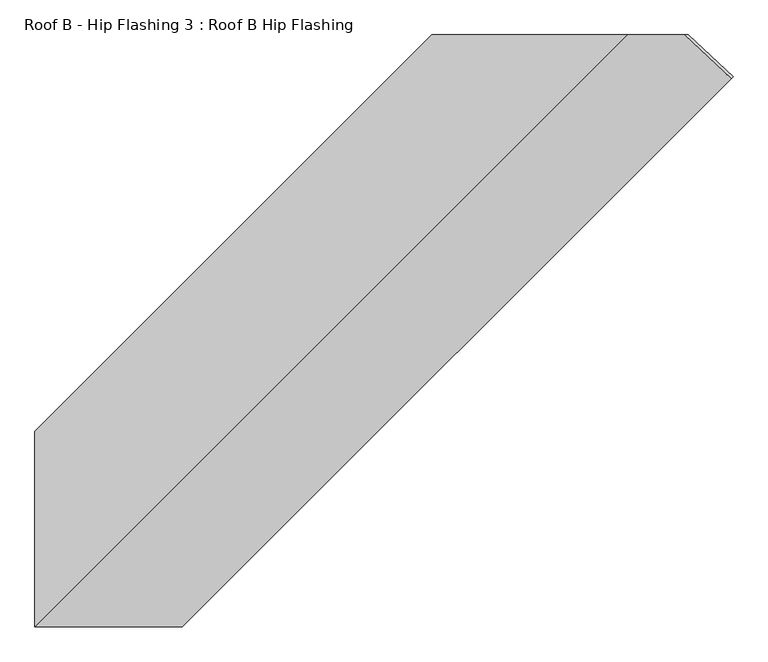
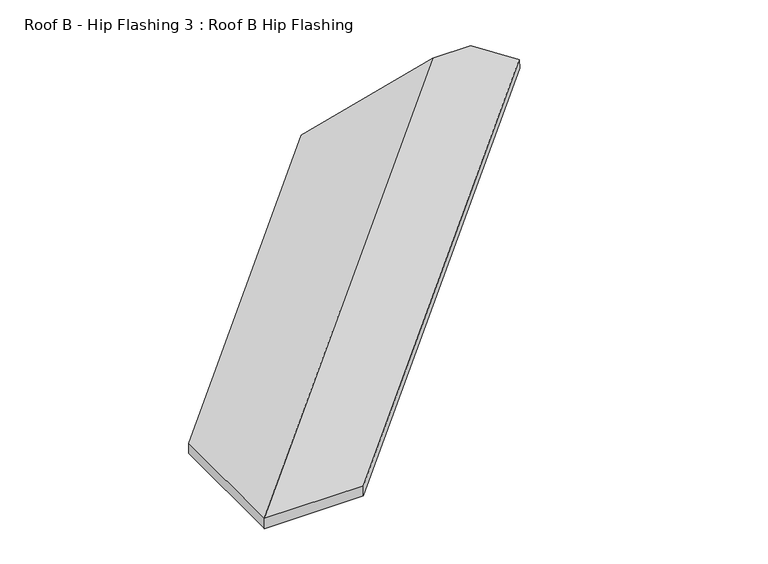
"""IFC4 building model written with IfcOpenShell, lengths in millimetres: proxy geometry, Roof B - Hip Flashing 3 : Roof B Hip Flashing."""

from ifc_helpers import new_model, si_unit, origin, place, context, project, spatial, faceted_brep, source, transform, mapped, element, save


def roof_b_hip_flashing_3_roof_b_hip_flashing_29ceef20(model_context):
    return source(origin(), model_context, "Body", "Brep", [
        faceted_brep([(-14766.3204812, -25391.4145543, 3635.261907), (-14761.5267402, -25386.6208133, 3599.4809368), (-14864.3540432, -25290.6816335, 3625.1877625), (-14874.2857004, -25290.6816335, 3662.2532118), (-16365.5018007, -26202.8017857, 3260.853156), (-16365.5018007, -26202.8017857, 3297.5728098), (-15453.3816484, -25290.6816335, 3541.974668), (-15453.3816484, -25290.6816335, 3505.2550142), (-16365.5018007, -26651.6680078, 3297.5728098), (-15004.496012, -25290.6816335, 3662.2532118), (-16026.5739348, -26651.6680078, 3297.5780119), (-16026.5739348, -26651.6680078, 3260.5125626), (-16365.5018007, -26651.6680078, 3260.5125626), (-16365.5018007, -26650.396896, 3260.853156), (-15005.7865382, -25290.6816335, 3625.1877625)], [[[0, 1, 2, 3]], [[4, 5, 6, 7]], [[5, 8, 9, 6]], [[10, 0, 3, 9, 8]], [[1, 0, 10, 11]], [[1, 11, 12, 13, 14, 2]], [[13, 4, 7, 14]], [[10, 8, 12, 11]], [[5, 4, 13, 12, 8]], [[3, 2, 14, 7, 6, 9]]]),
    ])


if __name__ == "__main__":
    model = new_model("IFC4")
    model_context = context("Model", 3, world=origin())
    ifc_project = project(units=[si_unit("LENGTHUNIT", "METRE", prefix="MILLI")], contexts=[model_context])
    site = spatial("IfcSite", under=ifc_project)
    building = spatial("IfcBuilding", under=site)
    placement = place(None, origin())
    roof_b_hip_flashing_3_roof_b_hip_flashing_shape = roof_b_hip_flashing_3_roof_b_hip_flashing_29ceef20(model_context)
    element("IfcBuildingElementProxy", 1, Name="Roof B - Hip Flashing 3 : Roof B Hip Flashing", ObjectType="Roof B - Hip Flashing 3 : Roof B Hip Flashing", at=placement, inside=building, context=model_context, shape_type="MappedRepresentation", body=[
        mapped(roof_b_hip_flashing_3_roof_b_hip_flashing_shape, transform((0.0, 0.0, 0.0), x_axis=(1.0, 0.0, 0.0), y_axis=(0.0, 1.0, 0.0), z_axis=(0.0, 0.0, 1.0))),
    ])
    save(model, "model.ifc")
